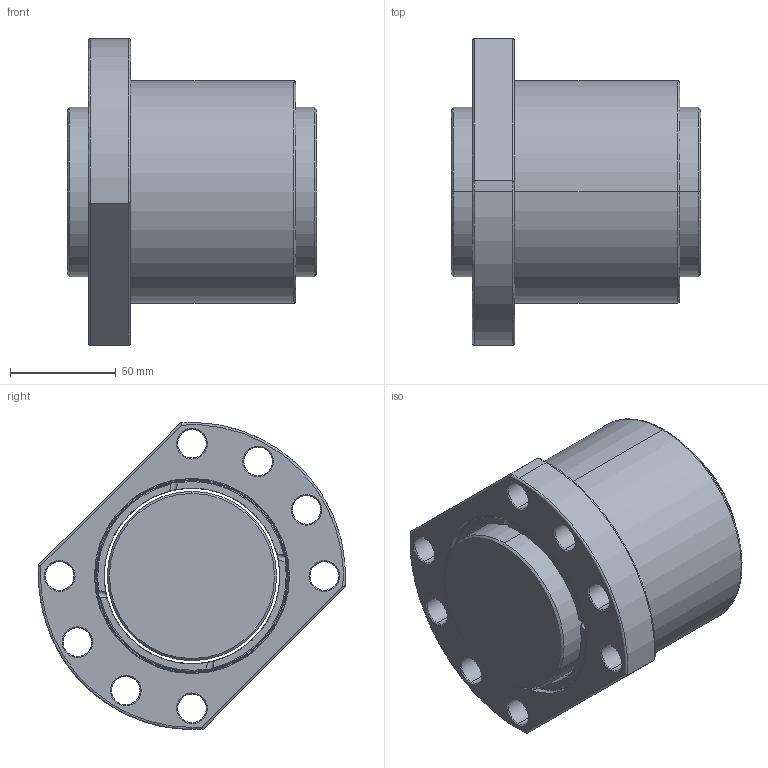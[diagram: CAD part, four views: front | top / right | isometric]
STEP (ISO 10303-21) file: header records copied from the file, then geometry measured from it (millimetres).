
FILE_DESCRIPTION (( 'STEP AP203' ), '1' );
FILE_NAME ('SFUR08010T4D-C.STEP', '2020-06-16T07:41:14', ( '' ), ( '' ), 'SwSTEP 2.0', 'SolidWorks 2013', '' );
FILE_SCHEMA (( 'CONFIG_CONTROL_DESIGN' ));
Length unit declared in the file: millimetre
Products named in the file (1): SFUR08010T4D-C
Bounding box: 118 x 144.83 x 145 mm (x, y, z)
Volume: 989646.9 mm3; surface area: 131856.6 mm2
Topology: 2 solids, 2 shells, 125 faces, 309 edges, 192 vertices
Faces by surface type: cylinder 53, bspline 26, plane 26, cone 20
Entity records: 5757 total; most frequent: CARTESIAN_POINT 2821, ORIENTED_EDGE 618, DIRECTION 575, EDGE_CURVE 309, AXIS2_PLACEMENT_3D 240, VERTEX_POINT 192, EDGE_LOOP 151, CIRCLE 140
